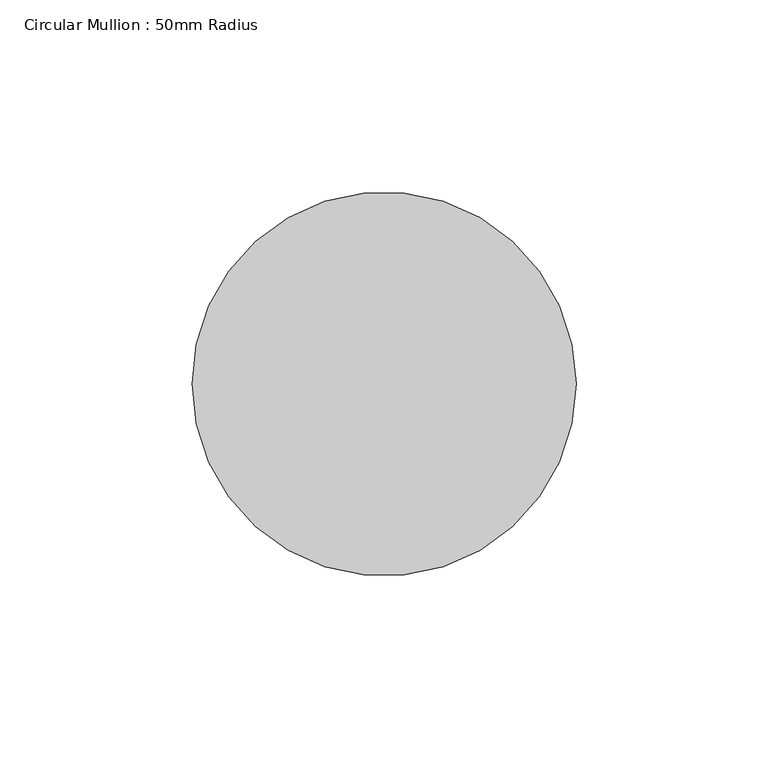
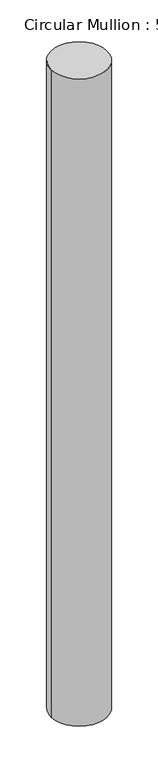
"""IFC4 building model written with IfcOpenShell, lengths in millimetres: member geometry, Circular Mullion : 50mm Radius."""

from ifc_helpers import new_model, si_unit, point, frame, frame_2d, origin, place, context, project, spatial, circle_curve, trimmed, segment, composite_curve, outline, extrude, source, transform, mapped, element, save


def circular_mullion_50mm_radius_fce2640b(model_context):
    return source(origin(), model_context, "Body", "SweptSolid", [
        extrude(outline(composite_curve([segment(trimmed(circle_curve(frame_2d((-50.0, 0.0)), 50.0), [point((0.0, 0.0))], [point((-100.0, 0.0))], False, "CARTESIAN"), True, "CONTINUOUS"), segment(trimmed(circle_curve(frame_2d((-50.0, 0.0)), 50.0), [point((-100.0, 0.0))], [point((0.0, 0.0))], False, "CARTESIAN"), True, "CONTINUOUS")], self_intersect=False)), frame((0.0, 0.0, -1216.1096997), z_axis=(0.0, 0.0, 1.0), x_axis=(1.0, 0.0, 0.0)), (0.0, 0.0, 1.0), 1216.1096997),
    ])


if __name__ == "__main__":
    model = new_model("IFC4")
    model_context = context("Model", 3, world=origin())
    ifc_project = project(units=[si_unit("LENGTHUNIT", "METRE", prefix="MILLI")], contexts=[model_context])
    site = spatial("IfcSite", under=ifc_project)
    building = spatial("IfcBuilding", under=site)
    placement = place(None, origin())
    circular_mullion_50mm_radius_shape = circular_mullion_50mm_radius_fce2640b(model_context)
    element("IfcMember", 1, ObjectType="Circular Mullion : 50mm Radius", at=placement, inside=building, context=model_context, shape_type="MappedRepresentation", body=[
        mapped(circular_mullion_50mm_radius_shape, transform((0.0, 0.0, 0.0), x_axis=(1.0, 0.0, 0.0), y_axis=(0.0, 1.0, 0.0), z_axis=(0.0, 0.0, 1.0))),
    ])
    save(model, "model.ifc")
